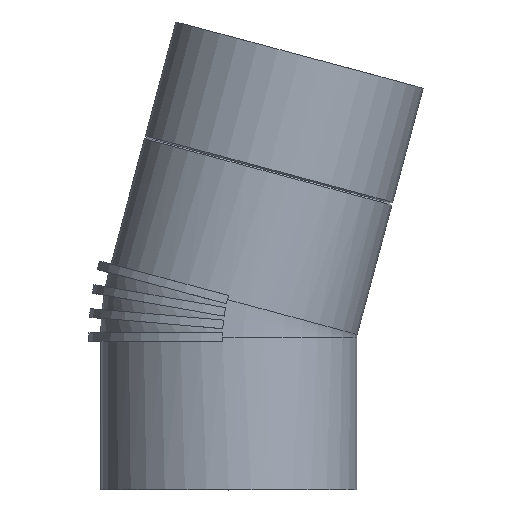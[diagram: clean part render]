
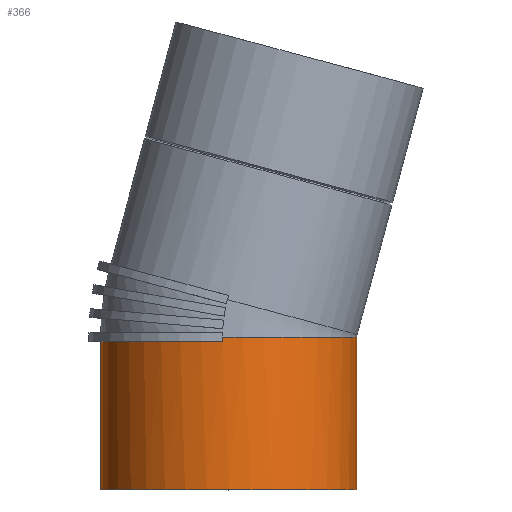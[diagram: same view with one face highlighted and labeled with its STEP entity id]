
A CAD part, top view. The second image highlights one B-rep face of the part: STEP entity #366.
In plain terms, the highlighted cylindrical face has radius 37.5 mm (diameter 75 mm), a full revolution.
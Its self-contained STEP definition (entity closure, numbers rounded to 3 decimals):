
#46=LINE($,#827,#50);
#47=LINE($,#830,#51);
#50=VECTOR($,#476,1.26);
#51=VECTOR($,#479,1.26);
#57=CYLINDRICAL_SURFACE($,#407,37.5);
#67=FACE_BOUND($,#120,.T.);
#91=FACE_OUTER_BOUND($,#119,.T.);
#119=EDGE_LOOP($,(#307,#308,#309,#310));
#120=EDGE_LOOP($,(#311));
#144=CIRCLE($,#400,37.5);
#147=CIRCLE($,#405,37.5);
#148=CIRCLE($,#408,37.5);
#177=VERTEX_POINT($,#772);
#178=VERTEX_POINT($,#779);
#181=VERTEX_POINT($,#826);
#182=VERTEX_POINT($,#829);
#183=VERTEX_POINT($,#836);
#219=EDGE_CURVE($,#178,#177,#144,.T.);
#223=EDGE_CURVE($,#177,#181,#46,.T.);
#225=EDGE_CURVE($,#182,#178,#47,.T.);
#227=EDGE_CURVE($,#181,#182,#147,.T.);
#228=EDGE_CURVE($,#183,#183,#148,.T.);
#307=ORIENTED_EDGE($,*,*,#223,.T.);
#308=ORIENTED_EDGE($,*,*,#227,.T.);
#309=ORIENTED_EDGE($,*,*,#225,.T.);
#310=ORIENTED_EDGE($,*,*,#219,.T.);
#311=ORIENTED_EDGE($,*,*,#228,.F.);
#366=ADVANCED_FACE($,(#91,#67),#57,.T.);
#400=AXIS2_PLACEMENT_3D($,#780,#472,#473);
#405=AXIS2_PLACEMENT_3D($,#833,#484,#485);
#407=AXIS2_PLACEMENT_3D($,#835,#488,#489);
#408=AXIS2_PLACEMENT_3D($,#837,#490,#491);
#472=DIRECTION('center_axis',(0.,-1.,0.));
#473=DIRECTION('ref_axis',(1.,0.,0.));
#476=DIRECTION($,(0.,-1.,0.));
#479=DIRECTION($,(0.,1.,0.));
#484=DIRECTION('center_axis',(0.,-1.,0.));
#485=DIRECTION('ref_axis',(1.,0.,0.));
#488=DIRECTION('center_axis',(0.,-1.,0.));
#489=DIRECTION('ref_axis',(1.,0.,0.));
#490=DIRECTION('center_axis',(0.,-1.,0.));
#491=DIRECTION('ref_axis',(1.,0.,0.));
#772=CARTESIAN_POINT('',(-1.8,44.668,37.457));
#779=CARTESIAN_POINT('',(-1.8,44.668,-37.457));
#780=CARTESIAN_POINT('Origin',(0.,44.668,0.));
#826=CARTESIAN_POINT('',(-1.8,43.408,37.457));
#827=CARTESIAN_POINT($,(-1.8,44.668,37.457));
#829=CARTESIAN_POINT('',(-1.8,43.408,-37.457));
#830=CARTESIAN_POINT($,(-1.8,44.668,-37.457));
#833=CARTESIAN_POINT('Origin',(0.,43.408,0.));
#835=CARTESIAN_POINT('Origin',(0.,22.334,0.));
#836=CARTESIAN_POINT('',(37.5,0.,0.));
#837=CARTESIAN_POINT('Origin',(0.,0.,0.));
